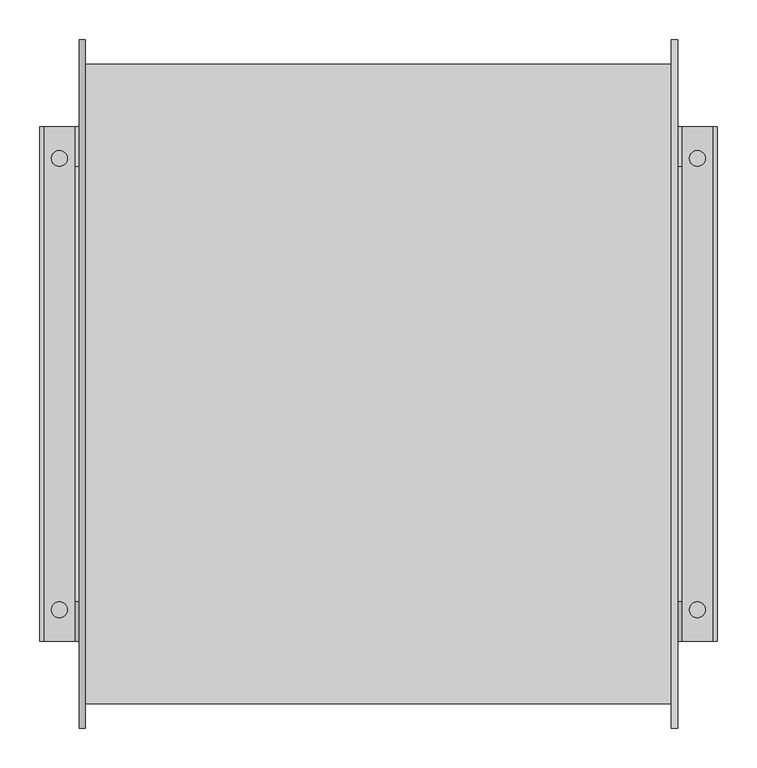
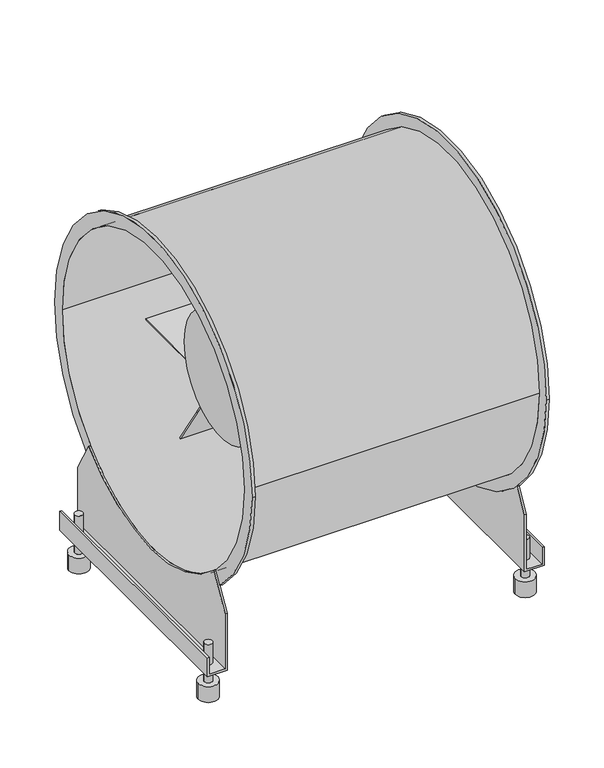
"""IFC4 building model written with IfcOpenShell, lengths in millimetres: proxy geometry, MERCOR - mcr EXi-F - obudowa walcowa : mcr EXi-F 80-1M."""

from ifc_helpers import new_model, si_unit, point, frame, origin, origin_2d, place, context, project, spatial, polyline, circle_curve, trimmed, segment, composite_curve, outline, extrude, source, transform, mapped, element, save
from ifc_brep_helpers import plane_surface, cylinder_surface, revolved_surface, advanced_brep


def mechanical_equipment_42d2660b(model_context):
    return source(origin(), model_context, "Body", "SolidModel", [
        extrude(outline(composite_curve([segment(polyline([(88.9060018, -92.9703291), (-88.9333066, -92.9703291), (-237.5704922, -321.8078017)]), True, "CONTINUOUS"), segment(trimmed(circle_curve(origin_2d(), 400.0), [point((-237.5704922, -321.8078017))], [point((-239.9822209, -320.0133335))], False, "CARTESIAN"), True, "CONTINUOUS"), segment(polyline([(-239.9822209, -320.0133335), (-92.5105992, -92.9703291), (-389.0456502, -92.9703291)]), True, "CONTINUOUS"), segment(trimmed(circle_curve(origin_2d(), 400.0), [point((-389.0456502, -92.9703291))], [point((-389.7503559, -89.9703291))], False, "CARTESIAN"), True, "CONTINUOUS"), segment(polyline([(-389.7503559, -89.9703291), (389.7503559, -89.9703291)]), True, "CONTINUOUS"), segment(trimmed(circle_curve(origin_2d(), 400.0), [point((389.7503559, -89.9703291))], [point((389.0456502, -92.9703291))], False, "CARTESIAN"), True, "CONTINUOUS"), segment(polyline([(389.0456502, -92.9703291), (92.4838891, -92.9703291), (239.9263645, -320.0552134)]), True, "CONTINUOUS"), segment(trimmed(circle_curve(origin_2d(), 400.0), [point((239.9263645, -320.0552134))], [point((237.5136465, -321.8497595))], False, "CARTESIAN"), True, "CONTINUOUS"), segment(polyline([(237.5136465, -321.8497595), (88.9060018, -92.9703291)]), True, "CONTINUOUS")], self_intersect=False)), frame((-172.8173111, 0.0, 0.0), z_axis=(1.0, 0.0, 0.0), x_axis=(0.0, 1.0, 0.0)), (0.0, 0.0, 1.0), 186.3173111),
        advanced_brep(
        [(38.0, -160.0, 0.0), (38.0, 160.0, 0.0), (-207.01, -160.0, 0.0), (-207.01, 160.0, 0.0), (12.5, -44.25, 153.7593493), (-73.5, -44.25, 153.7593493), (-73.5, 44.25, 153.7593493), (12.5, 44.25, 153.7593493), (12.5, -44.25, 280.0), (-73.5, -44.25, 280.0), (-73.5, 44.25, 280.0), (12.5, 44.25, 280.0)],
        [
            (0, 1, circle_curve(frame((38.0, 0.0, 0.0), z_axis=(1.0, 0.0, 0.0), x_axis=(0.0, 1.0, 0.0)), 160.0)),
            (1, 0, circle_curve(frame((38.0, 0.0, 0.0), z_axis=(1.0, 0.0, 0.0), x_axis=(0.0, 1.0, 0.0)), 160.0)),
            (2, 3, circle_curve(frame((-207.01, 0.0, 0.0), z_axis=(-1.0, 0.0, 0.0), x_axis=(0.0, 1.0, 0.0)), 160.0)),
            (3, 2, circle_curve(frame((-207.01, 0.0, 0.0), z_axis=(-1.0, 0.0, 0.0), x_axis=(0.0, 1.0, 0.0)), 160.0)),
            (0, 2),
            (3, 1),
            (4, 5),
            (5, 6, circle_curve(frame((-73.5, 0.0, 0.0), z_axis=(-1.0, 0.0, 0.0), x_axis=(0.0, 1.0, 0.0)), 160.0)),
            (6, 7),
            (7, 4, circle_curve(frame((12.5, 0.0, 0.0), z_axis=(1.0, 0.0, 0.0), x_axis=(0.0, 1.0, 0.0)), 160.0)),
            (8, 9),
            (9, 5),
            (4, 8),
            (10, 11),
            (11, 7),
            (6, 10),
            (11, 8),
            (10, 9),
        ],
        [
            plane_surface(frame((38.0, 160.0, 0.0), z_axis=(1.0, 0.0, 0.0), x_axis=(0.0, 0.0, 1.0))),
            plane_surface(frame((-207.01, 160.0, 0.0), z_axis=(-1.0, 0.0, 0.0), x_axis=(0.0, 0.0, -1.0))),
            cylinder_surface(frame((-207.01, 0.0, 0.0), z_axis=(1.0, 0.0, 0.0), x_axis=(0.0, 1.0, 0.0)), 160.0),
            plane_surface(frame((-1251.9903051, -44.25, 0.0), z_axis=(0.0, -1.0, 0.0), x_axis=(1.0, 0.0, 0.0))),
            plane_surface(frame((-1251.9903051, 44.25, 0.0), z_axis=(0.0, 1.0, 0.0), x_axis=(-1.0, 0.0, 0.0))),
            plane_surface(frame((12.5, -44.25, 0.0), z_axis=(1.0, 0.0, 0.0), x_axis=(0.0, 1.0, 0.0))),
            plane_surface(frame((12.5, -44.25, 280.0), z_axis=(0.0, 0.0, 1.0), x_axis=(0.0, 1.0, 0.0))),
            plane_surface(frame((-73.5, -44.25, 280.0), z_axis=(-1.0, 0.0, 0.0), x_axis=(0.0, 1.0, 0.0))),
        ],
        [
            (0, [[1, 2]]),
            (1, [[3, 4]]),
            (2, [[-1, 5, -4, 6]]),
            (2, [[-2, -6, -3, -5], [7, 8, 9, 10]]),
            (3, [[11, 12, -7, 13]]),
            (4, [[14, 15, -9, 16]]),
            (5, [[17, -13, -10, -15]]),
            (6, [[-11, -17, -14, 18]]),
            (7, [[-18, -16, -8, -12]]),
        ],
    ),
        extrude(outline(composite_curve([segment(trimmed(circle_curve(origin_2d(), 175.0), [point((-175.0, 0.0))], [point((175.0, 0.0))], False, "CARTESIAN"), True, "CONTINUOUS"), segment(trimmed(circle_curve(origin_2d(), 175.0), [point((175.0, 0.0))], [point((-175.0, 0.0))], False, "CARTESIAN"), True, "CONTINUOUS")], self_intersect=False)), frame((38.0, 0.0, 0.0), z_axis=(1.0, 0.0, 0.0), x_axis=(0.0, 1.0, 0.0)), (0.0, 0.0, 1.0), 98.0),
        extrude(outline(polyline([(-279.1143138, 261.8500521), (-209.4042695, 320.3437246), (-45.5, 125.0102226), (-45.5, 380.0), (45.5, 380.0), (45.5, 125.0102226), (209.4042695, 320.3437246), (279.1143138, 261.8500521), (115.2100443, 66.5165501), (366.3259541, 110.7950603), (382.1279382, 21.1775548), (131.0120285, -23.1009554), (351.8396534, -150.5958441), (306.3396534, -229.4041559), (85.5120285, -101.9092672), (172.7236687, -341.5212794), (87.2116402, -372.6451124), (0.0, -133.0331002), (-87.2116402, -372.6451124), (-172.7236687, -341.5212794), (-85.5120285, -101.9092672), (-306.3396534, -229.4041559), (-351.8396534, -150.5958441), (-131.0120285, -23.1009554), (-382.1279382, 21.1775548), (-366.3259541, 110.7950603), (-115.2100443, 66.5165501), (-279.1143138, 261.8500521)])), frame((68.0, 0.0, 0.0), z_axis=(1.0, 0.0, 0.0), x_axis=(0.0, 1.0, 0.0)), (0.0, 0.0, 1.0), 64.0),
        advanced_brep(
        [(378.0, -435.0, 0.0), (378.0, 435.0, 0.0), (378.0, 400.0, 0.0), (378.0, -400.0, 0.0), (-378.0, -435.0, 0.0), (-378.0, 435.0, 0.0), (-378.0, -400.0, 0.0), (-378.0, 400.0, 0.0), (370.0, 404.0, 0.0), (370.0, -404.0, 0.0), (-370.0, -404.0, 0.0), (-370.0, 404.0, 0.0), (370.0, -435.0, 0.0), (370.0, 435.0, 0.0), (-370.0, -435.0, 0.0), (-370.0, 435.0, 0.0)],
        [
            (0, 1, circle_curve(frame((378.0, 0.0, 0.0), z_axis=(1.0, 0.0, 0.0), x_axis=(0.0, 1.0, 0.0)), 435.0)),
            (1, 0, circle_curve(frame((378.0, 0.0, 0.0), z_axis=(1.0, 0.0, 0.0), x_axis=(0.0, 1.0, 0.0)), 435.0)),
            (2, 3, circle_curve(frame((378.0, 0.0, 0.0), z_axis=(-1.0, 0.0, 0.0), x_axis=(0.0, 1.0, 0.0)), 400.0)),
            (3, 2, circle_curve(frame((378.0, 0.0, 0.0), z_axis=(-1.0, 0.0, 0.0), x_axis=(0.0, 1.0, 0.0)), 400.0)),
            (4, 5, circle_curve(frame((-378.0, 0.0, 0.0), z_axis=(-1.0, 0.0, 0.0), x_axis=(0.0, 1.0, 0.0)), 435.0)),
            (5, 4, circle_curve(frame((-378.0, 0.0, 0.0), z_axis=(-1.0, 0.0, 0.0), x_axis=(0.0, 1.0, 0.0)), 435.0)),
            (6, 7, circle_curve(frame((-378.0, 0.0, 0.0), z_axis=(1.0, 0.0, 0.0), x_axis=(0.0, 1.0, 0.0)), 400.0)),
            (7, 6, circle_curve(frame((-378.0, 0.0, 0.0), z_axis=(1.0, 0.0, 0.0), x_axis=(0.0, 1.0, 0.0)), 400.0)),
            (8, 9, circle_curve(frame((370.0, 0.0, 0.0), z_axis=(-1.0, 0.0, 0.0), x_axis=(0.0, 1.0, 0.0)), 404.0)),
            (9, 10),
            (10, 11, circle_curve(frame((-370.0, 0.0, 0.0), z_axis=(1.0, 0.0, 0.0), x_axis=(0.0, 1.0, 0.0)), 404.0)),
            (11, 8),
            (9, 8, circle_curve(frame((370.0, 0.0, 0.0), z_axis=(-1.0, 0.0, 0.0), x_axis=(0.0, 1.0, 0.0)), 404.0)),
            (11, 10, circle_curve(frame((-370.0, 0.0, 0.0), z_axis=(1.0, 0.0, 0.0), x_axis=(0.0, 1.0, 0.0)), 404.0)),
            (6, 3),
            (2, 7),
            (12, 13, circle_curve(frame((370.0, 0.0, 0.0), z_axis=(-1.0, 0.0, 0.0), x_axis=(0.0, 1.0, 0.0)), 435.0)),
            (13, 12, circle_curve(frame((370.0, 0.0, 0.0), z_axis=(-1.0, 0.0, 0.0), x_axis=(0.0, 1.0, 0.0)), 435.0)),
            (0, 12),
            (13, 1),
            (14, 15, circle_curve(frame((-370.0, 0.0, 0.0), z_axis=(1.0, 0.0, 0.0), x_axis=(0.0, 1.0, 0.0)), 435.0)),
            (15, 14, circle_curve(frame((-370.0, 0.0, 0.0), z_axis=(1.0, 0.0, 0.0), x_axis=(0.0, 1.0, 0.0)), 435.0)),
            (5, 15),
            (14, 4),
        ],
        [
            plane_surface(frame((378.0, 404.0, 0.0), z_axis=(1.0, 0.0, 0.0), x_axis=(0.0, 0.0, 1.0))),
            plane_surface(frame((-378.0, 404.0, 0.0), z_axis=(-1.0, 0.0, 0.0), x_axis=(0.0, 0.0, -1.0))),
            cylinder_surface(frame((-378.0, 0.0, 0.0), z_axis=(1.0, 0.0, 0.0), x_axis=(0.0, 1.0, 0.0)), 404.0),
            revolved_surface(polyline([(378.0, 400.0, 0.0), (-378.0, 400.0, 0.0)]), (-403.0, 0.0, 0.0), (1.0, 0.0, 0.0)),
            plane_surface(frame((370.0, 435.0, 0.0), z_axis=(-1.0, 0.0, 0.0), x_axis=(0.0, 0.0, -1.0))),
            cylinder_surface(frame((370.0, 0.0, 0.0), z_axis=(1.0, 0.0, 0.0), x_axis=(0.0, 1.0, 0.0)), 435.0),
            plane_surface(frame((-370.0, 435.0, 0.0), z_axis=(1.0, 0.0, 0.0), x_axis=(0.0, 0.0, 1.0))),
            cylinder_surface(frame((-370.0, 0.0, 0.0), z_axis=(-1.0, 0.0, 0.0), x_axis=(0.0, 1.0, 0.0)), 435.0),
        ],
        [
            (0, [[1, 2], [3, 4]]),
            (1, [[5, 6], [7, 8]]),
            (2, [[9, 10, 11, 12]]),
            (2, [[13, -12, 14, -10]]),
            (3, [[15, -3, 16, -7]]),
            (3, [[-15, -8, -16, -4]]),
            (4, [[17, 18], [-9, -13]]),
            (5, [[-1, 19, -18, 20]]),
            (5, [[-2, -20, -17, -19]]),
            (6, [[21, 22], [-11, -14]]),
            (7, [[-6, 23, -21, 24]]),
            (7, [[-5, -24, -22, -23]]),
        ],
    ),
        advanced_brep(
        [(-383.0, -325.0, -525.0), (-423.0, -325.0, -525.0), (-423.0, -325.0, -480.0), (-428.0, -325.0, -480.0), (-428.0, -325.0, -530.0), (-378.0, -325.0, -530.0), (-378.0, -325.0, -376.6025404), (-383.0, -325.0, -376.6025404), (-378.0, 325.0, -530.0), (-428.0, 325.0, -530.0), (-428.0, 325.0, -480.0), (-423.0, 325.0, -480.0), (-423.0, 325.0, -525.0), (-383.0, 325.0, -525.0), (-383.0, 325.0, -376.6025404), (-378.0, 325.0, -376.6025404), (-383.0, -275.1768151, -290.3062528), (-383.0, 275.1768151, -290.3062528), (-378.0, 275.1768151, -290.3062528), (-378.0, -275.1768151, -290.3062528)],
        [
            (0, 1),
            (1, 2),
            (2, 3),
            (3, 4),
            (4, 5),
            (5, 6),
            (6, 7),
            (7, 0),
            (8, 9),
            (9, 10),
            (10, 11),
            (11, 12),
            (12, 13),
            (13, 14),
            (14, 15),
            (15, 8),
            (4, 9),
            (8, 5),
            (3, 10),
            (2, 11),
            (1, 12),
            (0, 13),
            (7, 16),
            (16, 17, circle_curve(frame((-383.0, 0.0, 0.0), z_axis=(1.0, 0.0, 0.0), x_axis=(0.0, 1.0, 0.0)), 400.0)),
            (17, 14),
            (15, 18),
            (18, 19, circle_curve(frame((-378.0, 0.0, 0.0), z_axis=(-1.0, 0.0, 0.0), x_axis=(0.0, 1.0, 0.0)), 400.0)),
            (19, 6),
            (19, 16),
            (17, 18),
        ],
        [
            plane_surface(frame((-378.0, -325.0, -290.0), z_axis=(0.0, -1.0, 0.0), x_axis=(0.0, 0.0, 1.0))),
            plane_surface(frame((-378.0, 325.0, -290.0), z_axis=(0.0, 1.0, 0.0), x_axis=(0.0, 0.0, -1.0))),
            plane_surface(frame((-428.0, -325.0, -530.0), z_axis=(0.0, 0.0, -1.0), x_axis=(0.0, 1.0, 0.0))),
            plane_surface(frame((-428.0, -325.0, -480.0), z_axis=(-1.0, 0.0, 0.0), x_axis=(0.0, 1.0, 0.0))),
            plane_surface(frame((-423.0, -325.0, -480.0), z_axis=(0.0, 0.0, 1.0), x_axis=(0.0, 1.0, 0.0))),
            plane_surface(frame((-423.0, -325.0, -525.0), z_axis=(1.0, 0.0, 0.0), x_axis=(0.0, 1.0, 0.0))),
            plane_surface(frame((-383.0, -325.0, -525.0), z_axis=(0.0, 0.0, 1.0), x_axis=(0.0, 1.0, 0.0))),
            plane_surface(frame((-383.0, -325.0, -290.0), z_axis=(-1.0, 0.0, 0.0), x_axis=(0.0, 1.0, 0.0))),
            plane_surface(frame((-378.0, -325.0, -530.0), z_axis=(1.0, 0.0, 0.0), x_axis=(0.0, 1.0, 0.0))),
            plane_surface(frame((403.0, -325.0, -376.6025404), z_axis=(0.0, -0.8660254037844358, 0.500000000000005), x_axis=(-1.0, 0.0, 0.0))),
            plane_surface(frame((403.0, 275.0, -290.0), z_axis=(0.0, 0.8660254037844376, 0.500000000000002), x_axis=(-1.0, 0.0, 0.0))),
            revolved_surface(polyline([(-378.0, 400.0, 0.0), (-383.0, 400.0, 0.0)]), (-403.0, 0.0, 0.0), (1.0, 0.0, 0.0)),
        ],
        [
            (0, [[1, 2, 3, 4, 5, 6, 7, 8]]),
            (1, [[9, 10, 11, 12, 13, 14, 15, 16]]),
            (2, [[-5, 17, -9, 18]]),
            (3, [[-4, 19, -10, -17]]),
            (4, [[-3, 20, -11, -19]]),
            (5, [[-2, 21, -12, -20]]),
            (6, [[-1, 22, -13, -21]]),
            (7, [[-22, -8, 23, 24, 25, -14]]),
            (8, [[-18, -16, 26, 27, 28, -6]]),
            (9, [[-7, -28, 29, -23]]),
            (10, [[-15, -25, 30, -26]]),
            (11, [[-24, -29, -27, -30]]),
        ],
    ),
        advanced_brep(
        [(378.0, -325.0, -530.0), (428.0, -325.0, -530.0), (428.0, -325.0, -480.0), (423.0, -325.0, -480.0), (423.0, -325.0, -525.0), (383.0, -325.0, -525.0), (383.0, -325.0, -376.6025404), (378.0, -325.0, -376.6025404), (383.0, 325.0, -525.0), (423.0, 325.0, -525.0), (423.0, 325.0, -480.0), (428.0, 325.0, -480.0), (428.0, 325.0, -530.0), (378.0, 325.0, -530.0), (378.0, 325.0, -376.6025404), (383.0, 325.0, -376.6025404), (383.0, 275.1768151, -290.3062528), (383.0, -275.1768151, -290.3062528), (378.0, -275.1768151, -290.3062528), (378.0, 275.1768151, -290.3062528)],
        [
            (0, 1),
            (1, 2),
            (2, 3),
            (3, 4),
            (4, 5),
            (5, 6),
            (6, 7),
            (7, 0),
            (8, 9),
            (9, 10),
            (10, 11),
            (11, 12),
            (12, 13),
            (13, 14),
            (14, 15),
            (15, 8),
            (0, 13),
            (12, 1),
            (11, 2),
            (10, 3),
            (9, 4),
            (8, 5),
            (15, 16),
            (16, 17, circle_curve(frame((383.0, 0.0, 0.0), z_axis=(-1.0, 0.0, 0.0), x_axis=(0.0, 1.0, 0.0)), 400.0)),
            (17, 6),
            (7, 18),
            (18, 19, circle_curve(frame((378.0, 0.0, 0.0), z_axis=(1.0, 0.0, 0.0), x_axis=(0.0, 1.0, 0.0)), 400.0)),
            (19, 14),
            (17, 18),
            (19, 16),
        ],
        [
            plane_surface(frame((378.0, -325.0, -530.0), z_axis=(0.0, -1.0, 0.0), x_axis=(1.0, 0.0, 0.0))),
            plane_surface(frame((378.0, 325.0, -530.0), z_axis=(0.0, 1.0, 0.0), x_axis=(-1.0, 0.0, 0.0))),
            plane_surface(frame((378.0, -325.0, -530.0), z_axis=(0.0, 0.0, -1.0), x_axis=(0.0, 1.0, 0.0))),
            plane_surface(frame((428.0, -325.0, -530.0), z_axis=(1.0, 0.0, 0.0), x_axis=(0.0, 1.0, 0.0))),
            plane_surface(frame((428.0, -325.0, -480.0), z_axis=(0.0, 0.0, 1.0), x_axis=(0.0, 1.0, 0.0))),
            plane_surface(frame((423.0, -325.0, -480.0), z_axis=(-1.0, 0.0, 0.0), x_axis=(0.0, 1.0, 0.0))),
            plane_surface(frame((423.0, -325.0, -525.0), z_axis=(0.0, 0.0, 1.0), x_axis=(0.0, 1.0, 0.0))),
            plane_surface(frame((383.0, -325.0, -525.0), z_axis=(1.0, 0.0, 0.0), x_axis=(0.0, 1.0, 0.0))),
            plane_surface(frame((378.0, -325.0, -290.0), z_axis=(-1.0, 0.0, 0.0), x_axis=(0.0, 1.0, 0.0))),
            plane_surface(frame((403.0, -325.0, -376.6025404), z_axis=(0.0, -0.8660254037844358, 0.500000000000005), x_axis=(-1.0, 0.0, 0.0))),
            plane_surface(frame((403.0, 275.0, -290.0), z_axis=(0.0, 0.8660254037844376, 0.500000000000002), x_axis=(-1.0, 0.0, 0.0))),
            revolved_surface(polyline([(383.0, 400.0, 0.0), (378.0, 400.0, 0.0)]), (-403.0, 0.0, 0.0), (1.0, 0.0, 0.0)),
        ],
        [
            (0, [[1, 2, 3, 4, 5, 6, 7, 8]]),
            (1, [[9, 10, 11, 12, 13, 14, 15, 16]]),
            (2, [[-1, 17, -13, 18]]),
            (3, [[-2, -18, -12, 19]]),
            (4, [[-3, -19, -11, 20]]),
            (5, [[-4, -20, -10, 21]]),
            (6, [[-5, -21, -9, 22]]),
            (7, [[-22, -16, 23, 24, 25, -6]]),
            (8, [[-17, -8, 26, 27, 28, -14]]),
            (9, [[-7, -25, 29, -26]]),
            (10, [[-15, -28, 30, -23]]),
            (11, [[-24, -30, -27, -29]]),
        ],
    ),
        advanced_brep(
        [(-428.0, 285.0, -572.5), (-378.0, 285.0, -572.5), (-393.0, 285.0, -572.5), (-413.0, 285.0, -572.5), (-428.0, 285.0, -615.0), (-378.0, 285.0, -615.0), (-413.0, 285.0, -470.0), (-393.0, 285.0, -470.0)],
        [
            (0, 1, circle_curve(frame((-403.0, 285.0, -572.5), z_axis=(0.0, 0.0, 1.0), x_axis=(1.0, 0.0, 0.0)), 25.0)),
            (1, 0, circle_curve(frame((-403.0, 285.0, -572.5), z_axis=(0.0, 0.0, 1.0), x_axis=(1.0, 0.0, 0.0)), 25.0)),
            (2, 3, circle_curve(frame((-403.0, 285.0, -572.5), z_axis=(0.0, 0.0, -1.0), x_axis=(1.0, 0.0, 0.0)), 10.0)),
            (3, 2, circle_curve(frame((-403.0, 285.0, -572.5), z_axis=(0.0, 0.0, -1.0), x_axis=(1.0, 0.0, 0.0)), 10.0)),
            (4, 5, circle_curve(frame((-403.0, 285.0, -615.0), z_axis=(0.0, 0.0, -1.0), x_axis=(1.0, 0.0, 0.0)), 25.0)),
            (5, 4, circle_curve(frame((-403.0, 285.0, -615.0), z_axis=(0.0, 0.0, -1.0), x_axis=(1.0, 0.0, 0.0)), 25.0)),
            (0, 4),
            (5, 1),
            (6, 7, circle_curve(frame((-403.0, 285.0, -470.0), z_axis=(0.0, 0.0, 1.0), x_axis=(1.0, 0.0, 0.0)), 10.0)),
            (7, 6, circle_curve(frame((-403.0, 285.0, -470.0), z_axis=(0.0, 0.0, 1.0), x_axis=(1.0, 0.0, 0.0)), 10.0)),
            (6, 3),
            (2, 7),
        ],
        [
            plane_surface(frame((-378.0, 285.0, -572.5), z_axis=(0.0, 0.0, 1.0), x_axis=(0.0, 1.0, 0.0))),
            plane_surface(frame((-378.0, 285.0, -615.0), z_axis=(0.0, 0.0, -1.0), x_axis=(0.0, -1.0, 0.0))),
            cylinder_surface(frame((-403.0, 285.0, -615.0), z_axis=(0.0, 0.0, 1.0), x_axis=(1.0, 0.0, 0.0)), 25.0),
            plane_surface(frame((-393.0, 285.0, -470.0), z_axis=(0.0, 0.0, 1.0), x_axis=(0.0, 1.0, 0.0))),
            cylinder_surface(frame((-403.0, 285.0, -572.5), z_axis=(0.0, 0.0, 1.0), x_axis=(1.0, 0.0, 0.0)), 10.0),
        ],
        [
            (0, [[1, 2], [3, 4]]),
            (1, [[5, 6]]),
            (2, [[-1, 7, -6, 8]]),
            (2, [[-2, -8, -5, -7]]),
            (3, [[9, 10]]),
            (4, [[-9, 11, -3, 12]]),
            (4, [[-10, -12, -4, -11]]),
        ],
    ),
        advanced_brep(
        [(378.0, 285.0, -572.5), (428.0, 285.0, -572.5), (413.0, 285.0, -572.5), (393.0, 285.0, -572.5), (378.0, 285.0, -615.0), (428.0, 285.0, -615.0), (393.0, 285.0, -470.0), (413.0, 285.0, -470.0)],
        [
            (0, 1, circle_curve(frame((403.0, 285.0, -572.5), z_axis=(0.0, 0.0, 1.0), x_axis=(1.0, 0.0, 0.0)), 25.0)),
            (1, 0, circle_curve(frame((403.0, 285.0, -572.5), z_axis=(0.0, 0.0, 1.0), x_axis=(1.0, 0.0, 0.0)), 25.0)),
            (2, 3, circle_curve(frame((403.0, 285.0, -572.5), z_axis=(0.0, 0.0, -1.0), x_axis=(1.0, 0.0, 0.0)), 10.0)),
            (3, 2, circle_curve(frame((403.0, 285.0, -572.5), z_axis=(0.0, 0.0, -1.0), x_axis=(1.0, 0.0, 0.0)), 10.0)),
            (4, 5, circle_curve(frame((403.0, 285.0, -615.0), z_axis=(0.0, 0.0, -1.0), x_axis=(1.0, 0.0, 0.0)), 25.0)),
            (5, 4, circle_curve(frame((403.0, 285.0, -615.0), z_axis=(0.0, 0.0, -1.0), x_axis=(1.0, 0.0, 0.0)), 25.0)),
            (0, 4),
            (5, 1),
            (6, 7, circle_curve(frame((403.0, 285.0, -470.0), z_axis=(0.0, 0.0, 1.0), x_axis=(1.0, 0.0, 0.0)), 10.0)),
            (7, 6, circle_curve(frame((403.0, 285.0, -470.0), z_axis=(0.0, 0.0, 1.0), x_axis=(1.0, 0.0, 0.0)), 10.0)),
            (6, 3),
            (2, 7),
        ],
        [
            plane_surface(frame((-378.0, 285.0, -572.5), z_axis=(0.0, 0.0, 1.0), x_axis=(0.0, 1.0, 0.0))),
            plane_surface(frame((-378.0, 285.0, -615.0), z_axis=(0.0, 0.0, -1.0), x_axis=(0.0, -1.0, 0.0))),
            cylinder_surface(frame((403.0, 285.0, 0.0), z_axis=(0.0, 0.0, 1.0), x_axis=(1.0, 0.0, 0.0)), 25.0),
            plane_surface(frame((-393.0, 285.0, -470.0), z_axis=(0.0, 0.0, 1.0), x_axis=(0.0, 1.0, 0.0))),
            cylinder_surface(frame((403.0, 285.0, 0.0), z_axis=(0.0, 0.0, 1.0), x_axis=(1.0, 0.0, 0.0)), 10.0),
        ],
        [
            (0, [[1, 2], [3, 4]]),
            (1, [[5, 6]]),
            (2, [[-1, 7, -6, 8]]),
            (2, [[-2, -8, -5, -7]]),
            (3, [[9, 10]]),
            (4, [[-9, 11, -3, 12]]),
            (4, [[-10, -12, -4, -11]]),
        ],
    ),
        advanced_brep(
        [(378.0, -285.0, -572.5), (428.0, -285.0, -572.5), (413.0, -285.0, -572.5), (393.0, -285.0, -572.5), (378.0, -285.0, -615.0), (428.0, -285.0, -615.0), (393.0, -285.0, -470.0), (413.0, -285.0, -470.0)],
        [
            (0, 1, circle_curve(frame((403.0, -285.0, -572.5), z_axis=(0.0, 0.0, 1.0), x_axis=(1.0, 0.0, 0.0)), 25.0)),
            (1, 0, circle_curve(frame((403.0, -285.0, -572.5), z_axis=(0.0, 0.0, 1.0), x_axis=(1.0, 0.0, 0.0)), 25.0)),
            (2, 3, circle_curve(frame((403.0, -285.0, -572.5), z_axis=(0.0, 0.0, -1.0), x_axis=(1.0, 0.0, 0.0)), 10.0)),
            (3, 2, circle_curve(frame((403.0, -285.0, -572.5), z_axis=(0.0, 0.0, -1.0), x_axis=(1.0, 0.0, 0.0)), 10.0)),
            (4, 5, circle_curve(frame((403.0, -285.0, -615.0), z_axis=(0.0, 0.0, -1.0), x_axis=(1.0, 0.0, 0.0)), 25.0)),
            (5, 4, circle_curve(frame((403.0, -285.0, -615.0), z_axis=(0.0, 0.0, -1.0), x_axis=(1.0, 0.0, 0.0)), 25.0)),
            (0, 4),
            (5, 1),
            (6, 7, circle_curve(frame((403.0, -285.0, -470.0), z_axis=(0.0, 0.0, 1.0), x_axis=(1.0, 0.0, 0.0)), 10.0)),
            (7, 6, circle_curve(frame((403.0, -285.0, -470.0), z_axis=(0.0, 0.0, 1.0), x_axis=(1.0, 0.0, 0.0)), 10.0)),
            (6, 3),
            (2, 7),
        ],
        [
            plane_surface(frame((-378.0, 285.0, -572.5), z_axis=(0.0, 0.0, 1.0), x_axis=(0.0, 1.0, 0.0))),
            plane_surface(frame((-378.0, 285.0, -615.0), z_axis=(0.0, 0.0, -1.0), x_axis=(0.0, -1.0, 0.0))),
            cylinder_surface(frame((403.0, -285.0, 0.0), z_axis=(0.0, 0.0, 1.0), x_axis=(1.0, 0.0, 0.0)), 25.0),
            plane_surface(frame((-393.0, 285.0, -470.0), z_axis=(0.0, 0.0, 1.0), x_axis=(0.0, 1.0, 0.0))),
            cylinder_surface(frame((403.0, -285.0, 0.0), z_axis=(0.0, 0.0, 1.0), x_axis=(1.0, 0.0, 0.0)), 10.0),
        ],
        [
            (0, [[1, 2], [3, 4]]),
            (1, [[5, 6]]),
            (2, [[-1, 7, -6, 8]]),
            (2, [[-2, -8, -5, -7]]),
            (3, [[9, 10]]),
            (4, [[-9, 11, -3, 12]]),
            (4, [[-10, -12, -4, -11]]),
        ],
    ),
        advanced_brep(
        [(-428.0, -285.0, -572.5), (-378.0, -285.0, -572.5), (-393.0, -285.0, -572.5), (-413.0, -285.0, -572.5), (-428.0, -285.0, -615.0), (-378.0, -285.0, -615.0), (-413.0, -285.0, -470.0), (-393.0, -285.0, -470.0)],
        [
            (0, 1, circle_curve(frame((-403.0, -285.0, -572.5), z_axis=(0.0, 0.0, 1.0), x_axis=(1.0, 0.0, 0.0)), 25.0)),
            (1, 0, circle_curve(frame((-403.0, -285.0, -572.5), z_axis=(0.0, 0.0, 1.0), x_axis=(1.0, 0.0, 0.0)), 25.0)),
            (2, 3, circle_curve(frame((-403.0, -285.0, -572.5), z_axis=(0.0, 0.0, -1.0), x_axis=(1.0, 0.0, 0.0)), 10.0)),
            (3, 2, circle_curve(frame((-403.0, -285.0, -572.5), z_axis=(0.0, 0.0, -1.0), x_axis=(1.0, 0.0, 0.0)), 10.0)),
            (4, 5, circle_curve(frame((-403.0, -285.0, -615.0), z_axis=(0.0, 0.0, -1.0), x_axis=(1.0, 0.0, 0.0)), 25.0)),
            (5, 4, circle_curve(frame((-403.0, -285.0, -615.0), z_axis=(0.0, 0.0, -1.0), x_axis=(1.0, 0.0, 0.0)), 25.0)),
            (0, 4),
            (5, 1),
            (6, 7, circle_curve(frame((-403.0, -285.0, -470.0), z_axis=(0.0, 0.0, 1.0), x_axis=(1.0, 0.0, 0.0)), 10.0)),
            (7, 6, circle_curve(frame((-403.0, -285.0, -470.0), z_axis=(0.0, 0.0, 1.0), x_axis=(1.0, 0.0, 0.0)), 10.0)),
            (6, 3),
            (2, 7),
        ],
        [
            plane_surface(frame((-378.0, 285.0, -572.5), z_axis=(0.0, 0.0, 1.0), x_axis=(0.0, 1.0, 0.0))),
            plane_surface(frame((-378.0, 285.0, -615.0), z_axis=(0.0, 0.0, -1.0), x_axis=(0.0, -1.0, 0.0))),
            cylinder_surface(frame((-403.0, -285.0, 0.0), z_axis=(0.0, 0.0, 1.0), x_axis=(1.0, 0.0, 0.0)), 25.0),
            plane_surface(frame((-393.0, 285.0, -470.0), z_axis=(0.0, 0.0, 1.0), x_axis=(0.0, 1.0, 0.0))),
            cylinder_surface(frame((-403.0, -285.0, 0.0), z_axis=(0.0, 0.0, 1.0), x_axis=(1.0, 0.0, 0.0)), 10.0),
        ],
        [
            (0, [[1, 2], [3, 4]]),
            (1, [[5, 6]]),
            (2, [[-1, 7, -6, 8]]),
            (2, [[-2, -8, -5, -7]]),
            (3, [[9, 10]]),
            (4, [[-9, 11, -3, 12]]),
            (4, [[-10, -12, -4, -11]]),
        ],
    ),
    ])


if __name__ == "__main__":
    model = new_model("IFC4")
    model_context = context("Model", 3, world=origin())
    ifc_project = project(units=[si_unit("LENGTHUNIT", "METRE", prefix="MILLI")], contexts=[model_context])
    site = spatial("IfcSite", under=ifc_project)
    building = spatial("IfcBuilding", under=site)
    placement = place(None, origin())
    mechanical_equipment_shape = mechanical_equipment_42d2660b(model_context)
    element("IfcBuildingElementProxy", 1, Name="MERCOR - mcr EXi-F - obudowa walcowa : mcr EXi-F 80-1M", ObjectType="MERCOR - mcr EXi-F - obudowa walcowa : mcr EXi-F 80-1M", at=placement, inside=building, context=model_context, shape_type="MappedRepresentation", body=[
        mapped(mechanical_equipment_shape, transform((0.0, 0.0, 0.0), x_axis=(1.0, 0.0, 0.0), y_axis=(0.0, 1.0, 0.0), z_axis=(0.0, 0.0, 1.0))),
    ])
    save(model, "model.ifc")
